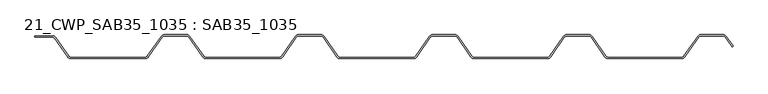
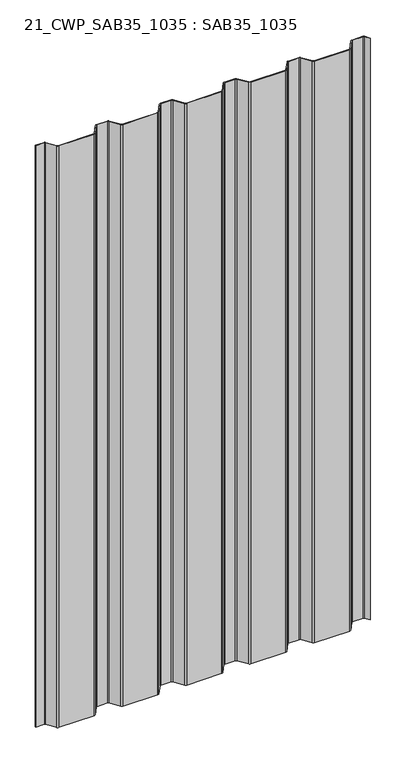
"""IFC4 building model written with IfcOpenShell, lengths in millimetres: plate geometry, 21_CWP_SAB35_1035 : SAB35_1035."""

from ifc_helpers import new_model, si_unit, point, frame_2d, origin, origin_with_axes, place, context, project, spatial, polyline, circle_curve, trimmed, segment, composite_curve, outline, extrude, source, transform, mapped, element, save


def plate_21_cwp_sab35_1035_sab35_1035_91128900(model_context):
    return source(origin(), model_context, "Body", "SweptSolid", [
        extrude(outline(composite_curve([segment(trimmed(circle_curve(frame_2d((-501.9200802, 28.9785731)), 4.0142846), [point((-498.6093838, 31.2487649))], [point((-501.9200802, 32.9928577))], True, "CARTESIAN"), True, "CONTINUOUS"), segment(polyline([(-501.9200802, 32.9928577), (-529.3837809, 32.9928577), (-529.3837809, 35.0), (-501.9200802, 35.0)]), True, "CONTINUOUS"), segment(trimmed(circle_curve(frame_2d((-501.9200802, 28.9785731)), 6.0214269), [point((-501.9200802, 35.0))], [point((-496.9540357, 32.3838608))], False, "CARTESIAN"), True, "CONTINUOUS"), segment(polyline([(-496.9540357, 32.3838608), (-477.2296301, 3.6191026)]), True, "CONTINUOUS"), segment(trimmed(circle_curve(frame_2d((-473.9189338, 5.8892944)), 4.0142846), [point((-477.2296301, 3.6191026))], [point((-473.9189338, 1.8750098))], True, "CARTESIAN"), True, "CONTINUOUS"), segment(polyline([(-473.9189338, 1.8750098), (-358.4094059, 1.8750098)]), True, "CONTINUOUS"), segment(trimmed(circle_curve(frame_2d((-358.4094059, 5.8892944)), 4.0142846), [point((-358.4094059, 1.8750098))], [point((-355.0987096, 3.6191026))], True, "CARTESIAN"), True, "CONTINUOUS"), segment(polyline([(-355.0987096, 3.6191026), (-334.0028754, 34.3838608)]), True, "CONTINUOUS"), segment(trimmed(circle_curve(frame_2d((-329.0368309, 30.9785731)), 6.0214269), [point((-334.0028754, 34.3838608))], [point((-329.0368309, 37.0))], False, "CARTESIAN"), True, "CONTINUOUS"), segment(polyline([(-329.0368309, 37.0), (-294.1808524, 37.0)]), True, "CONTINUOUS"), segment(trimmed(circle_curve(frame_2d((-294.1808524, 30.9785731)), 6.0214269), [point((-294.1808524, 37.0))], [point((-289.2148079, 34.3838608))], False, "CARTESIAN"), True, "CONTINUOUS"), segment(polyline([(-289.2148079, 34.3838608), (-268.1189738, 3.6191026)]), True, "CONTINUOUS"), segment(trimmed(circle_curve(frame_2d((-264.8082774, 5.8892944)), 4.0142846), [point((-268.1189738, 3.6191026))], [point((-264.8082774, 1.8750098))], True, "CARTESIAN"), True, "CONTINUOUS"), segment(polyline([(-264.8082774, 1.8750098), (-150.6701781, 1.8750098)]), True, "CONTINUOUS"), segment(trimmed(circle_curve(frame_2d((-150.6701781, 5.8892944)), 4.0142846), [point((-150.6701781, 1.8750098))], [point((-147.3594818, 3.6191026))], True, "CARTESIAN"), True, "CONTINUOUS"), segment(polyline([(-147.3594818, 3.6191026), (-126.2636477, 34.3838608)]), True, "CONTINUOUS"), segment(trimmed(circle_curve(frame_2d((-121.2976032, 30.9785731)), 6.0214269), [point((-126.2636477, 34.3838608))], [point((-121.2976032, 37.0))], False, "CARTESIAN"), True, "CONTINUOUS"), segment(polyline([(-121.2976032, 37.0), (-86.4416246, 37.0)]), True, "CONTINUOUS"), segment(trimmed(circle_curve(frame_2d((-86.4416246, 30.9785731)), 6.0214269), [point((-86.4416246, 37.0))], [point((-81.4755801, 34.3838608))], False, "CARTESIAN"), True, "CONTINUOUS"), segment(polyline([(-81.4755801, 34.3838608), (-60.379746, 3.6191026)]), True, "CONTINUOUS"), segment(trimmed(circle_curve(frame_2d((-57.0690497, 5.8892944)), 4.0142846), [point((-60.379746, 3.6191026))], [point((-57.0690497, 1.8750098))], True, "CARTESIAN"), True, "CONTINUOUS"), segment(polyline([(-57.0690497, 1.8750098), (57.0690497, 1.8750098)]), True, "CONTINUOUS"), segment(trimmed(circle_curve(frame_2d((57.0690497, 5.8892944)), 4.0142846), [point((57.0690497, 1.8750098))], [point((60.379746, 3.6191026))], True, "CARTESIAN"), True, "CONTINUOUS"), segment(polyline([(60.379746, 3.6191026), (81.4755801, 34.3838608)]), True, "CONTINUOUS"), segment(trimmed(circle_curve(frame_2d((86.4416246, 30.9785731)), 6.0214269), [point((81.4755801, 34.3838608))], [point((86.4416246, 37.0))], False, "CARTESIAN"), True, "CONTINUOUS"), segment(polyline([(86.4416246, 37.0), (121.2976032, 37.0)]), True, "CONTINUOUS"), segment(trimmed(circle_curve(frame_2d((121.2976032, 30.9785731)), 6.0214269), [point((121.2976032, 37.0))], [point((126.2636477, 34.3838608))], False, "CARTESIAN"), True, "CONTINUOUS"), segment(polyline([(126.2636477, 34.3838608), (147.3594818, 3.6191026)]), True, "CONTINUOUS"), segment(trimmed(circle_curve(frame_2d((150.6701781, 5.8892944)), 4.0142846), [point((147.3594818, 3.6191026))], [point((150.6701781, 1.8750098))], True, "CARTESIAN"), True, "CONTINUOUS"), segment(polyline([(150.6701781, 1.8750098), (264.8082774, 1.8750098)]), True, "CONTINUOUS"), segment(trimmed(circle_curve(frame_2d((264.8082774, 5.8892944)), 4.0142846), [point((264.8082774, 1.8750098))], [point((268.1189738, 3.6191026))], True, "CARTESIAN"), True, "CONTINUOUS"), segment(polyline([(268.1189738, 3.6191026), (289.2148079, 34.3838608)]), True, "CONTINUOUS"), segment(trimmed(circle_curve(frame_2d((294.1808524, 30.9785731)), 6.0214269), [point((289.2148079, 34.3838608))], [point((294.1808524, 37.0))], False, "CARTESIAN"), True, "CONTINUOUS"), segment(polyline([(294.1808524, 37.0), (329.0368309, 37.0)]), True, "CONTINUOUS"), segment(trimmed(circle_curve(frame_2d((329.0368309, 30.9785731)), 6.0214269), [point((329.0368309, 37.0))], [point((334.0028754, 34.3838608))], False, "CARTESIAN"), True, "CONTINUOUS"), segment(polyline([(334.0028754, 34.3838608), (355.0987096, 3.6191026)]), True, "CONTINUOUS"), segment(trimmed(circle_curve(frame_2d((358.4094059, 5.8892944)), 4.0142846), [point((355.0987096, 3.6191026))], [point((358.4094059, 1.8750098))], True, "CARTESIAN"), True, "CONTINUOUS"), segment(polyline([(358.4094059, 1.8750098), (472.5475052, 1.8750098)]), True, "CONTINUOUS"), segment(trimmed(circle_curve(frame_2d((472.5475052, 5.8892944)), 4.0142846), [point((472.5475052, 1.8750098))], [point((475.8582015, 3.6191026))], True, "CARTESIAN"), True, "CONTINUOUS"), segment(polyline([(475.8582015, 3.6191026), (496.9540357, 34.3838608)]), True, "CONTINUOUS"), segment(trimmed(circle_curve(frame_2d((501.9200802, 30.9785731)), 6.0214269), [point((496.9540357, 34.3838608))], [point((501.9200802, 37.0))], False, "CARTESIAN"), True, "CONTINUOUS"), segment(polyline([(501.9200802, 37.0), (536.7760587, 37.0)]), True, "CONTINUOUS"), segment(trimmed(circle_curve(frame_2d((536.7760587, 30.9785731)), 6.0214269), [point((536.7760587, 37.0))], [point((541.7421032, 34.3838608))], False, "CARTESIAN"), True, "CONTINUOUS"), segment(polyline([(541.7421032, 34.3838608), (552.0309708, 19.3792622), (550.3756226, 18.2441663), (540.0867551, 33.2487649)]), True, "CONTINUOUS"), segment(trimmed(circle_curve(frame_2d((536.7760587, 30.9785731)), 4.0142846), [point((540.0867551, 33.2487649))], [point((536.7760587, 34.9928577))], True, "CARTESIAN"), True, "CONTINUOUS"), segment(polyline([(536.7760587, 34.9928577), (501.9200802, 34.9928577)]), True, "CONTINUOUS"), segment(trimmed(circle_curve(frame_2d((501.9200802, 30.9785731)), 4.0142846), [point((501.9200802, 34.9928577))], [point((498.6093838, 33.2487649))], True, "CARTESIAN"), True, "CONTINUOUS"), segment(polyline([(498.6093838, 33.2487649), (477.5135497, 2.4840067)]), True, "CONTINUOUS"), segment(trimmed(circle_curve(frame_2d((472.5475052, 5.8892944)), 6.0214269), [point((477.5135497, 2.4840067))], [point((472.5475052, -0.1321325))], False, "CARTESIAN"), True, "CONTINUOUS"), segment(polyline([(472.5475052, -0.1321325), (358.4094059, -0.1321325)]), True, "CONTINUOUS"), segment(trimmed(circle_curve(frame_2d((358.4094059, 5.8892944)), 6.0214269), [point((358.4094059, -0.1321325))], [point((353.4433614, 2.4840067))], False, "CARTESIAN"), True, "CONTINUOUS"), segment(polyline([(353.4433614, 2.4840067), (332.3475273, 33.2487649)]), True, "CONTINUOUS"), segment(trimmed(circle_curve(frame_2d((329.0368309, 30.9785731)), 4.0142846), [point((332.3475273, 33.2487649))], [point((329.0368309, 34.9928577))], True, "CARTESIAN"), True, "CONTINUOUS"), segment(polyline([(329.0368309, 34.9928577), (294.1808524, 34.9928577)]), True, "CONTINUOUS"), segment(trimmed(circle_curve(frame_2d((294.1808524, 30.9785731)), 4.0142846), [point((294.1808524, 34.9928577))], [point((290.8701561, 33.2487649))], True, "CARTESIAN"), True, "CONTINUOUS"), segment(polyline([(290.8701561, 33.2487649), (269.7743219, 2.4840067)]), True, "CONTINUOUS"), segment(trimmed(circle_curve(frame_2d((264.8082774, 5.8892944)), 6.0214269), [point((269.7743219, 2.4840067))], [point((264.8082774, -0.1321325))], False, "CARTESIAN"), True, "CONTINUOUS"), segment(polyline([(264.8082774, -0.1321325), (150.6701781, -0.1321325)]), True, "CONTINUOUS"), segment(trimmed(circle_curve(frame_2d((150.6701781, 5.8892944)), 6.0214269), [point((150.6701781, -0.1321325))], [point((145.7041336, 2.4840067))], False, "CARTESIAN"), True, "CONTINUOUS"), segment(polyline([(145.7041336, 2.4840067), (124.6082995, 33.2487649)]), True, "CONTINUOUS"), segment(trimmed(circle_curve(frame_2d((121.2976032, 30.9785731)), 4.0142846), [point((124.6082995, 33.2487649))], [point((121.2976032, 34.9928577))], True, "CARTESIAN"), True, "CONTINUOUS"), segment(polyline([(121.2976032, 34.9928577), (86.4416246, 34.9928577)]), True, "CONTINUOUS"), segment(trimmed(circle_curve(frame_2d((86.4416246, 30.9785731)), 4.0142846), [point((86.4416246, 34.9928577))], [point((83.1309283, 33.2487649))], True, "CARTESIAN"), True, "CONTINUOUS"), segment(polyline([(83.1309283, 33.2487649), (62.0350941, 2.4840067)]), True, "CONTINUOUS"), segment(trimmed(circle_curve(frame_2d((57.0690497, 5.8892944)), 6.0214269), [point((62.0350941, 2.4840067))], [point((57.0690497, -0.1321325))], False, "CARTESIAN"), True, "CONTINUOUS"), segment(polyline([(57.0690497, -0.1321325), (-57.0690497, -0.1321325)]), True, "CONTINUOUS"), segment(trimmed(circle_curve(frame_2d((-57.0690497, 5.8892944)), 6.0214269), [point((-57.0690497, -0.1321325))], [point((-62.0350941, 2.4840067))], False, "CARTESIAN"), True, "CONTINUOUS"), segment(polyline([(-62.0350941, 2.4840067), (-83.1309283, 33.2487649)]), True, "CONTINUOUS"), segment(trimmed(circle_curve(frame_2d((-86.4416246, 30.9785731)), 4.0142846), [point((-83.1309283, 33.2487649))], [point((-86.4416246, 34.9928577))], True, "CARTESIAN"), True, "CONTINUOUS"), segment(polyline([(-86.4416246, 34.9928577), (-121.2976032, 34.9928577)]), True, "CONTINUOUS"), segment(trimmed(circle_curve(frame_2d((-121.2976032, 30.9785731)), 4.0142846), [point((-121.2976032, 34.9928577))], [point((-124.6082995, 33.2487649))], True, "CARTESIAN"), True, "CONTINUOUS"), segment(polyline([(-124.6082995, 33.2487649), (-145.7041336, 2.4840067)]), True, "CONTINUOUS"), segment(trimmed(circle_curve(frame_2d((-150.6701781, 5.8892944)), 6.0214269), [point((-145.7041336, 2.4840067))], [point((-150.6701781, -0.1321325))], False, "CARTESIAN"), True, "CONTINUOUS"), segment(polyline([(-150.6701781, -0.1321325), (-264.8082774, -0.1321325)]), True, "CONTINUOUS"), segment(trimmed(circle_curve(frame_2d((-264.8082774, 5.8892944)), 6.0214269), [point((-264.8082774, -0.1321325))], [point((-269.7743219, 2.4840067))], False, "CARTESIAN"), True, "CONTINUOUS"), segment(polyline([(-269.7743219, 2.4840067), (-290.8701561, 33.2487649)]), True, "CONTINUOUS"), segment(trimmed(circle_curve(frame_2d((-294.1808524, 30.9785731)), 4.0142846), [point((-290.8701561, 33.2487649))], [point((-294.1808524, 34.9928577))], True, "CARTESIAN"), True, "CONTINUOUS"), segment(polyline([(-294.1808524, 34.9928577), (-329.0368309, 34.9928577)]), True, "CONTINUOUS"), segment(trimmed(circle_curve(frame_2d((-329.0368309, 30.9785731)), 4.0142846), [point((-329.0368309, 34.9928577))], [point((-332.3475273, 33.2487649))], True, "CARTESIAN"), True, "CONTINUOUS"), segment(polyline([(-332.3475273, 33.2487649), (-353.4433614, 2.4840067)]), True, "CONTINUOUS"), segment(trimmed(circle_curve(frame_2d((-358.4094059, 5.8892944)), 6.0214269), [point((-353.4433614, 2.4840067))], [point((-358.4094059, -0.1321325))], False, "CARTESIAN"), True, "CONTINUOUS"), segment(polyline([(-358.4094059, -0.1321325), (-473.9189338, -0.1321325)]), True, "CONTINUOUS"), segment(trimmed(circle_curve(frame_2d((-473.9189338, 5.8892944)), 6.0214269), [point((-473.9189338, -0.1321325))], [point((-478.8849783, 2.4840067))], False, "CARTESIAN"), True, "CONTINUOUS"), segment(polyline([(-478.8849783, 2.4840067), (-498.6093838, 31.2487649)]), True, "CONTINUOUS")], self_intersect=False)), origin_with_axes(), (0.0, 0.0, 1.0), 2000.0),
    ])


if __name__ == "__main__":
    model = new_model("IFC4")
    model_context = context("Model", 3, world=origin())
    ifc_project = project(units=[si_unit("LENGTHUNIT", "METRE", prefix="MILLI")], contexts=[model_context])
    site = spatial("IfcSite", under=ifc_project)
    building = spatial("IfcBuilding", under=site)
    placement = place(None, origin())
    plate_21_cwp_sab35_1035_sab35_1035_shape = plate_21_cwp_sab35_1035_sab35_1035_91128900(model_context)
    element("IfcPlate", 1, ObjectType="21_CWP_SAB35_1035 : SAB35_1035", at=placement, inside=building, context=model_context, shape_type="MappedRepresentation", body=[
        mapped(plate_21_cwp_sab35_1035_sab35_1035_shape, transform((0.0, 0.0, 0.0), x_axis=(1.0, 0.0, 0.0), y_axis=(0.0, 1.0, 0.0), z_axis=(0.0, 0.0, 1.0))),
    ])
    save(model, "model.ifc")
